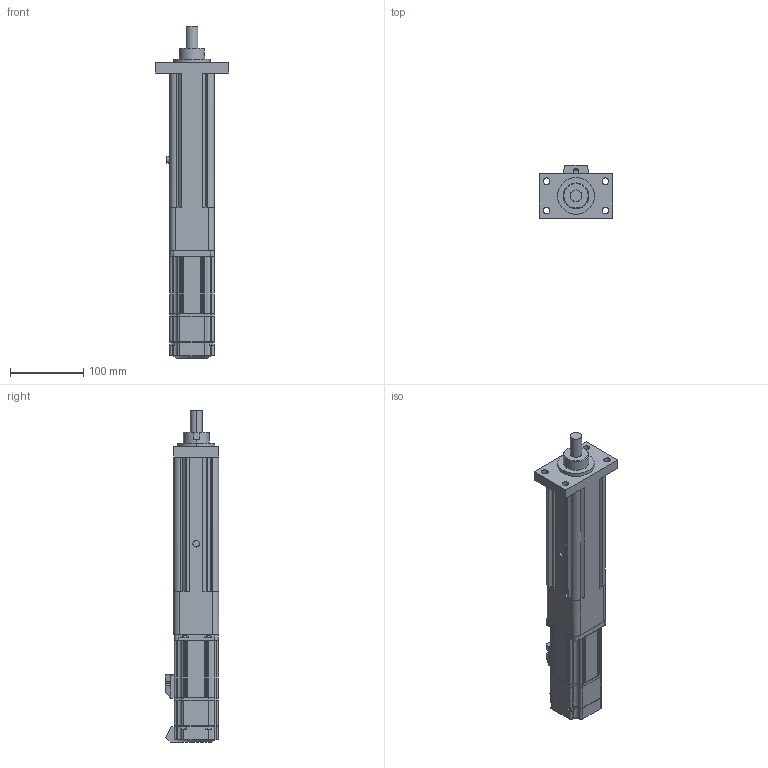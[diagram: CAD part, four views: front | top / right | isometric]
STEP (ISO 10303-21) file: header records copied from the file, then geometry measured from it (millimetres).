
FILE_DESCRIPTION (( 'STEP AP203' ), '1' );
FILE_NAME ('S2眻盄ヶ楊擘假蚾.STEP', '2024-05-27T05:15:08', ( '' ), ( '' ), 'SwSTEP 2.0', 'SolidWorks 2018', '' );
FILE_SCHEMA (( 'CONFIG_CONTROL_DESIGN' ));
Length unit declared in the file: millimetre
Products named in the file (3): 陓豎400W 湍价陬; S2眻盄ヶ楊擘; S2眻盄ヶ楊擘假蚾
Assembly tree (2 placements, depth 2):
  S2眻盄ヶ楊擘假蚾
    S2眻盄ヶ楊擘
    陓豎400W 湍价陬
Bounding box: 100 x 72.54 x 452 mm (x, y, z)
Volume: 537708 mm3; surface area: 220873.5 mm2
Topology: 1 solids, 28 shells, 710 faces, 2055 edges, 1403 vertices
Faces by surface type: plane 346, cylinder 345, cone 11, torus 8
Entity records: 23865 total; most frequent: DIRECTION 4319, CARTESIAN_POINT 4290, ORIENTED_EDGE 3614, EDGE_CURVE 2055, AXIS2_PLACEMENT_3D 1568, VERTEX_POINT 1403, VECTOR 1183, LINE 1183
